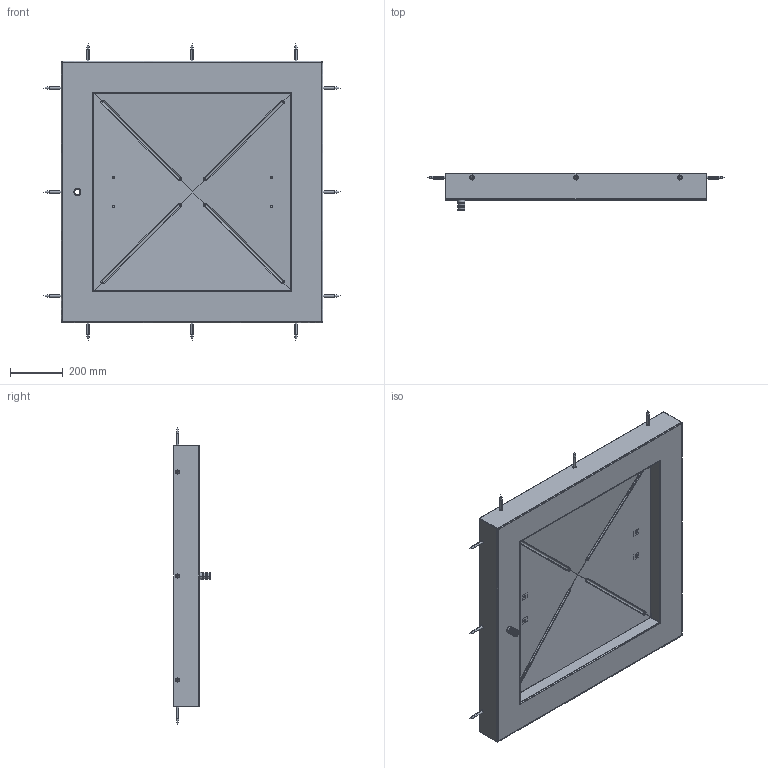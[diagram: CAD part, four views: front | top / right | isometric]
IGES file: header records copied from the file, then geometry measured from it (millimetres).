
Start section:  PTC IGES file: 10194947-601.igs
Global section: file name: 10194947-601.igs; native system: Creo Parametric by Parametric Technology Corporation; preprocessor: 2017170; author: stat; organization: Unknown; date: 20181122.094051; units: millimetre
Bounding box: 1127 x 140 x 1127 mm (x, y, z)
Surface area: 3519444.6 mm2 (no closed solid volume)
Topology: 0 solids, 0 shells, 814 faces, 3858 edges, 3834 vertices
Faces by surface type: bspline 426, revolution 388
